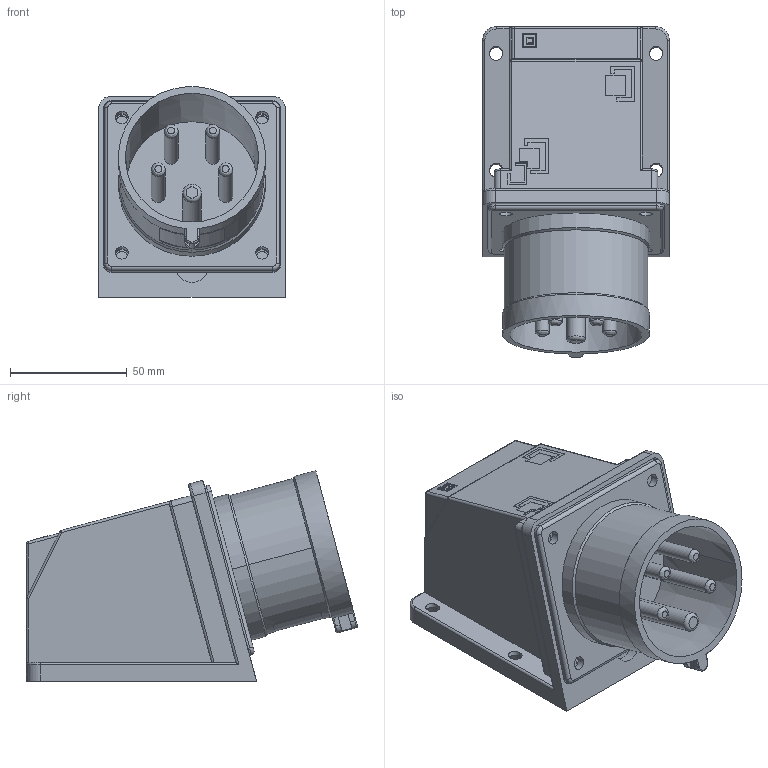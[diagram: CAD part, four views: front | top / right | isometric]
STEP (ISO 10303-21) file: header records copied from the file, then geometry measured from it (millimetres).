
FILE_DESCRIPTION(('FreeCAD Model'),'2;1');
FILE_NAME('Open CASCADE Shape Model','2026-02-04T11:06:45',(''),(''), 'Open CASCADE STEP processor 7.8','FreeCAD','Unknown');
FILE_SCHEMA(('AUTOMOTIVE_DESIGN { 1 0 10303 214 1 1 1 1 }'));
Length unit declared in the file: millimetre
Products named in the file (9): TL3M32453; Estrutura corpo; Terminais; Tomada; Pino Neutro; Pino L3; Pino Terra; Pino L2; Pino L1
Assembly tree (8 placements, depth 2):
  TL3M32453
    Estrutura corpo
    Terminais
    Tomada
    Pino Neutro
    Pino L3
    Pino Terra
    Pino L2
    Pino L1
Bounding box: 80 x 141.71 x 90.01 mm (x, y, z)
Volume: 144904.8 mm3; surface area: 113714.3 mm2
Topology: 8 solids, 8 shells, 765 faces, 1980 edges, 1283 vertices
Faces by surface type: plane 439, cylinder 216, bspline 58, torus 30, cone 12, sphere 10
Full cylindrical faces by diameter (mm): 6 x4, 8 x1
Entity records: 31734 total; most frequent: CARTESIAN_POINT 12916, ORIENTED_EDGE 3960, DIRECTION 3685, EDGE_CURVE 1980, VERTEX_POINT 1283, LINE 1279, VECTOR 1279, AXIS2_PLACEMENT_3D 1203
